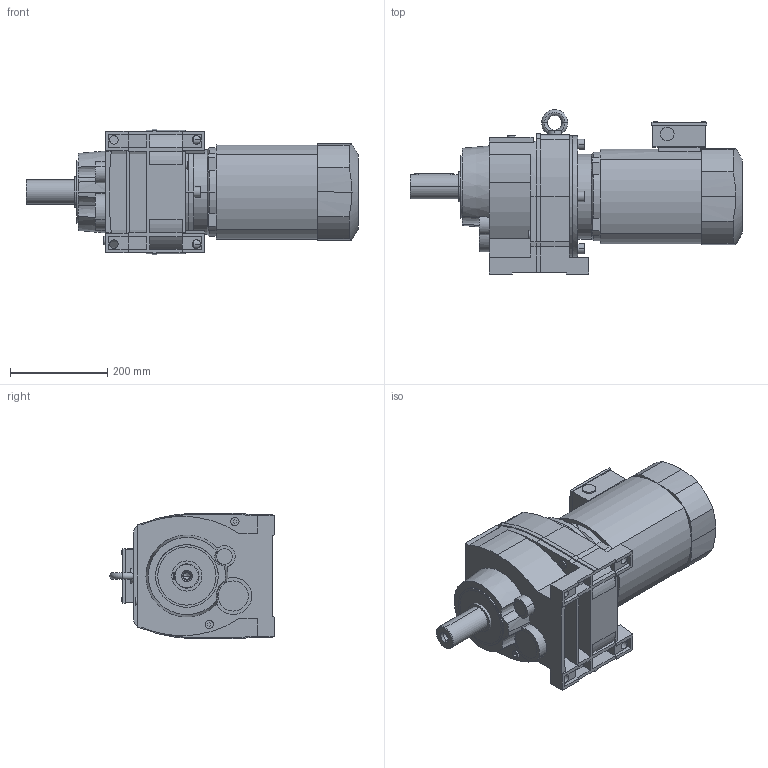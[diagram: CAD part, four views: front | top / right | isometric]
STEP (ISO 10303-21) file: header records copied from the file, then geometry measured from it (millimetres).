
FILE_DESCRIPTION(('STEP AP214'),'1');
FILE_NAME('STEP-File.stp','2018-01-01T00:00:00',(' '),('KEB'),' ','KEB-DRIVE',' ');
FILE_SCHEMA(('AUTOMOTIVE_DESIGN { 1 0 10303 214 1 1 1 1 }'));
Length unit declared in the file: millimetre
Products named in the file (8): g5a; w5_we_50x100; cp5; dm112l_kkn; kk08; PLUG_M25; ndm112; G53A DM100LF4§CAD13
Assembly tree (7 placements, depth 2):
  G53A DM100LF4§CAD13
    g5a
    w5_we_50x100
    cp5
    dm112l_kkn
    kk08
    PLUG_M25
    ndm112
Bounding box: 684 x 338.98 x 259 mm (x, y, z)
Volume: 24190328.3 mm3; surface area: 969246.4 mm2
Topology: 7 solids, 7 shells, 567 faces, 1708 edges, 1357 vertices
Faces by surface type: plane 406, cylinder 102, cone 52, torus 7
Entity records: 21470 total; most frequent: CARTESIAN_POINT 6485, ORIENTED_EDGE 3412, DIRECTION 2319, EDGE_CURVE 1706, VERTEX_POINT 1357, VECTOR 1329, LINE 1329, EDGE_LOOP 781
